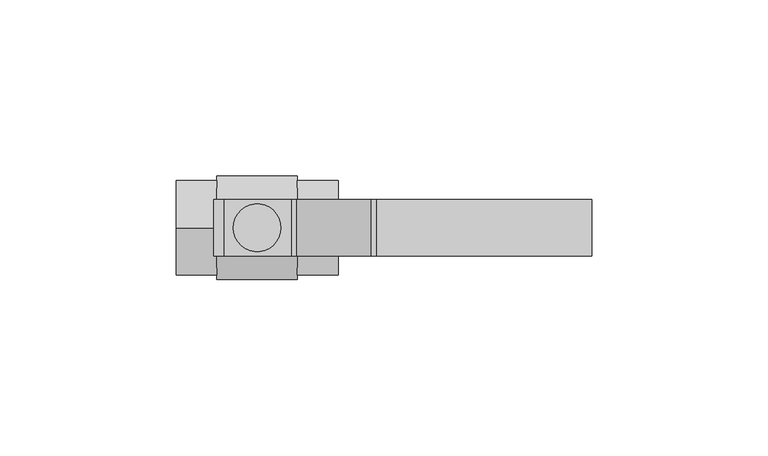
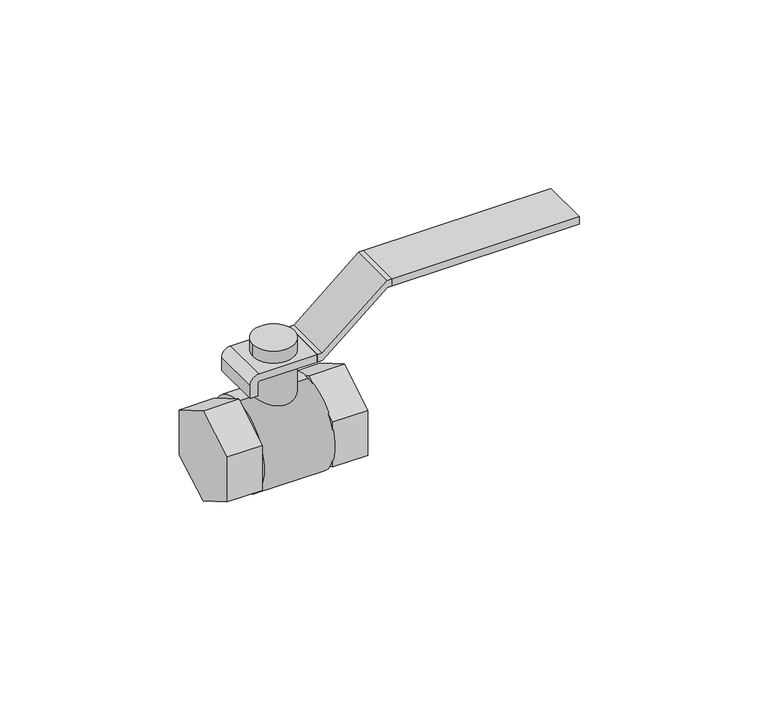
"""IFC4 building model written with IfcOpenShell, lengths in millimetres: valve geometry, ZYR_15.01.01 Vàlvula Tall : Vàlvula FON."""

import ifcopenshell
import ifcopenshell.guid

model = None  # the IFC model being written
_history = None  # IfcOwnerHistory: only IFC2X3 demands one
_inside = {}  # id of a spatial element -> (the spatial element, [elements in it])
_under = {}  # id of a project, library or spatial element -> (it, [spatial elements below it])
_declared = {}  # id of a project -> (the project, [libraries it declares])
_typed = {}  # id of a type object -> (the type object, [elements of that type])
_made_of = {}  # id of a material, layer set ... -> (it, [elements and type objects made of it])


def new_model(schema):
    """Start an empty IFC model of exactly this schema.

    Asked for "IFC4X3", IfcOpenShell would pick the latest addendum, in which some entities
    have other attributes; the version numbers below select the first issue.
    IFC2X3 requires an IfcOwnerHistory on every rooted entity: one is made here for all.
    """
    global model, _history
    if schema == "IFC4X3":
        model = ifcopenshell.file(schema_version=(4, 3, 0, 0))
    else:
        model = ifcopenshell.file(schema=schema)
    _inside.clear()
    _under.clear()
    _declared.clear()
    _typed.clear()
    _made_of.clear()
    _history = None
    if model.schema == "IFC2X3":
        org = make("IfcOrganization", Name="unknown")
        user = make(
            "IfcPersonAndOrganization",
            ThePerson=make("IfcPerson", FamilyName="unknown"),
            TheOrganization=org,
        )
        app = make(
            "IfcApplication",
            ApplicationDeveloper=org,
            Version="unknown",
            ApplicationFullName="unknown",
            ApplicationIdentifier="unknown",
        )
        _history = make(
            "IfcOwnerHistory",
            OwningUser=user,
            OwningApplication=app,
            ChangeAction="ADDED",
            CreationDate=0,
        )
    return model


def make(cls, **values):
    """One entity of the class cls with the attributes given. An attribute that is None is left unset."""
    return model.create_entity(
        cls, **{name: value for name, value in values.items() if value is not None}
    )


def rooted(cls, **values):
    """An entity with a GlobalId (a new one), such as an element, a storey or a relation."""
    return make(cls, GlobalId=ifcopenshell.guid.new(), OwnerHistory=_history, **values)


def si_unit(unit_type, name, prefix=None):
    """IfcSIUnit, for example si_unit("LENGTHUNIT", "METRE", prefix="MILLI")."""
    return make("IfcSIUnit", UnitType=unit_type, Prefix=prefix, Name=name)


def assignment(units):
    """IfcUnitAssignment: the units of a project."""
    return None if units is None else make("IfcUnitAssignment", Units=units)


def point(xyz):
    """IfcCartesianPoint."""
    return None if xyz is None else make("IfcCartesianPoint", Coordinates=xyz)


def direction(xyz):
    """IfcDirection."""
    return None if xyz is None else make("IfcDirection", DirectionRatios=xyz)


def frame(location, z_axis=None, x_axis=None):
    """IfcAxis2Placement3D, a coordinate frame: its origin and axes. An axis left out is left unset."""
    return make(
        "IfcAxis2Placement3D",
        Location=point(location),
        Axis=direction(z_axis),
        RefDirection=direction(x_axis),
    )


def frame_2d(location, x_axis=None):
    """IfcAxis2Placement2D, a coordinate frame in the plane: its origin and x axis."""
    return make(
        "IfcAxis2Placement2D", Location=point(location), RefDirection=direction(x_axis)
    )


def origin():
    """The frame at (0, 0, 0) with its axes left unset."""
    return frame((0.0, 0.0, 0.0))


def origin_with_axes():
    """The frame at (0, 0, 0) with the z axis (0, 0, 1) and the x axis (1, 0, 0) written out."""
    return frame((0.0, 0.0, 0.0), z_axis=(0.0, 0.0, 1.0), x_axis=(1.0, 0.0, 0.0))


def origin_2d():
    """The frame at (0, 0) in the plane with its x axis left unset."""
    return frame_2d((0.0, 0.0))


def place(relative_to, where):
    """IfcLocalPlacement: puts the frame where relative to a parent placement (None: the world)."""
    return make(
        "IfcLocalPlacement", PlacementRelTo=relative_to, RelativePlacement=where
    )


def context(
    kind, dimensions, precision=None, world=None, true_north=None, identifier=None
):
    """IfcGeometricRepresentationContext, for example the 3D "Model" context."""
    return make(
        "IfcGeometricRepresentationContext",
        ContextIdentifier=identifier,
        ContextType=kind,
        CoordinateSpaceDimension=dimensions,
        Precision=precision,
        WorldCoordinateSystem=world,
        TrueNorth=true_north,
    )


def project(units=None, contexts=None):
    """IfcProject with its units and contexts."""
    return rooted(
        "IfcProject",
        Name="project",
        RepresentationContexts=contexts,
        UnitsInContext=assignment(units),
    )


def spatial(cls, under=None, at=None, **own):
    """A site, building, storey or space (cls), placed at a placement, below another one or the project."""
    s = rooted(cls, ObjectPlacement=at, **own)
    if under is not None:
        _under.setdefault(under.id(), (under, []))[1].append(s)
    return s


def polyline(points):
    """IfcPolyline through the points."""
    return make("IfcPolyline", Points=[point(p) for p in points])


def circle_curve(where, radius):
    """IfcCircle in the frame where."""
    return make("IfcCircle", Position=where, Radius=radius)


def trimmed(basis, trim1, trim2, sense, master):
    """IfcTrimmedCurve: the piece of a basis curve between two trims."""
    return make(
        "IfcTrimmedCurve",
        BasisCurve=basis,
        Trim1=trim1,
        Trim2=trim2,
        SenseAgreement=sense,
        MasterRepresentation=master,
    )


def segment(curve, same_sense, transition):
    """IfcCompositeCurveSegment."""
    return make(
        "IfcCompositeCurveSegment",
        Transition=transition,
        SameSense=same_sense,
        ParentCurve=curve,
    )


def composite_curve(segments, self_intersect=None):
    """IfcCompositeCurve: segments joined end to end."""
    return make("IfcCompositeCurve", Segments=segments, SelfIntersect=self_intersect)


def outline(outer, holes=None, kind="AREA"):
    """IfcArbitraryClosedProfileDef: a profile drawn as a closed curve; with holes, ...WithVoids."""
    if holes is None:
        return make("IfcArbitraryClosedProfileDef", ProfileType=kind, OuterCurve=outer)
    return make(
        "IfcArbitraryProfileDefWithVoids",
        ProfileType=kind,
        OuterCurve=outer,
        InnerCurves=holes,
    )


def extrude(swept, where, along, depth):
    """IfcExtrudedAreaSolid: the profile swept, set in the frame where, extruded along a direction by depth."""
    return make(
        "IfcExtrudedAreaSolid",
        SweptArea=swept,
        Position=where,
        ExtrudedDirection=direction(along),
        Depth=depth,
    )


def shape(context_of_items, identifier, shape_type, items):
    """IfcShapeRepresentation: the items that make up one representation, for example the "Body"."""
    return make(
        "IfcShapeRepresentation",
        ContextOfItems=context_of_items,
        RepresentationIdentifier=identifier,
        RepresentationType=shape_type,
        Items=items,
    )


def source(mapping_origin, context_of_items, identifier, shape_type, items):
    """IfcRepresentationMap: a shape defined once, which mapped items show again and again."""
    return make(
        "IfcRepresentationMap",
        MappingOrigin=mapping_origin,
        MappedRepresentation=shape(context_of_items, identifier, shape_type, items),
    )


def transform(
    local_origin,
    x_axis=None,
    y_axis=None,
    z_axis=None,
    scale=None,
    scale2=None,
    scale3=None,
    uniform=True,
):
    """IfcCartesianTransformationOperator3D, or its non-uniform kind. x_axis, y_axis, z_axis: its Axis1, 2, 3."""
    if uniform:
        return make(
            "IfcCartesianTransformationOperator3D",
            Axis1=direction(x_axis),
            Axis2=direction(y_axis),
            LocalOrigin=point(local_origin),
            Scale=scale,
            Axis3=direction(z_axis),
        )
    return make(
        "IfcCartesianTransformationOperator3DnonUniform",
        Axis1=direction(x_axis),
        Axis2=direction(y_axis),
        LocalOrigin=point(local_origin),
        Scale=scale,
        Axis3=direction(z_axis),
        Scale2=scale2,
        Scale3=scale3,
    )


def mapped(mapping_source, mapping_target):
    """IfcMappedItem: shows the shape of a source again, moved by a transform."""
    return make(
        "IfcMappedItem", MappingSource=mapping_source, MappingTarget=mapping_target
    )


def made_of(thing, what):
    """Note that an element or type object is made of a material, layer set ...; save() writes the relation."""
    if what is not None:
        _made_of.setdefault(what.id(), (what, []))[1].append(thing)
    return thing


def element(
    cls,
    number,
    at=None,
    inside=None,
    cuts=None,
    type_object=None,
    material=None,
    context=None,
    identifier="Body",
    shape_type=None,
    held_by="IfcProductDefinitionShape",
    body=None,
    shapes=None,
    **own,
):
    """One element of the class cls, such as IfcWall. Its Tag is "e" and its number.

    at: its placement. inside: the storey or other place that contains it. cuts: it is an
    opening in that element (IfcRelVoidsElement). A single representation is given by context,
    identifier, shape_type and body (its items); several are given by shapes. held_by: the class
    of the entity that holds the representations. save() writes the other relations.
    """
    e = rooted(cls, Tag="e%d" % number, ObjectPlacement=at, **own)
    if body is not None:
        shapes = [shape(context, identifier, shape_type, body)]
    if shapes is not None:
        e.Representation = make(held_by, Representations=shapes)
    if inside is not None:
        _inside.setdefault(inside.id(), (inside, []))[1].append(e)
    if cuts is not None:
        rooted(
            "IfcRelVoidsElement", RelatingBuildingElement=cuts, RelatedOpeningElement=e
        )
    if type_object is not None:
        _typed.setdefault(type_object.id(), (type_object, []))[1].append(e)
    return made_of(e, material)


def aggregate(whole, parts):
    """IfcRelAggregates: a whole, such as a stair, and the parts it consists of."""
    return rooted("IfcRelAggregates", RelatingObject=whole, RelatedObjects=parts)


def save(model, path):
    """Write the relations noted so far, then the file.

    IfcRelAggregates (storeys below a building ...), IfcRelContainedInSpatialStructure (elements
    in a storey), IfcRelDefinesByType, IfcRelAssociatesMaterial and IfcRelDeclares: one each for
    every whole, place, type object, material and project.
    """
    for whole, parts in _under.values():
        aggregate(whole, parts)
    for where, things in _inside.values():
        rooted(
            "IfcRelContainedInSpatialStructure",
            RelatedElements=things,
            RelatingStructure=where,
        )
    for kind, things in _typed.values():
        rooted("IfcRelDefinesByType", RelatedObjects=things, RelatingType=kind)
    for what, things in _made_of.values():
        rooted("IfcRelAssociatesMaterial", RelatedObjects=things, RelatingMaterial=what)
    for by, libraries in _declared.values():
        rooted("IfcRelDeclares", RelatingContext=by, RelatedDefinitions=libraries)
    model.write(path)


def plane_surface(at):
    """IfcPlane: the flat surface through the origin of the frame at, square to its z axis."""
    return make("IfcPlane", Position=at)


def cylinder_surface(at, radius):
    """IfcCylindricalSurface: all points at the distance radius from the z axis of the frame at."""
    return make("IfcCylindricalSurface", Position=at, Radius=radius)


def advanced_brep(points, edges, surfaces, faces):
    """IfcAdvancedBrep: a solid bounded by faces that lie on surfaces and meet in shared edges.

    An edge is (start, end): straight between two places in points (the first is 0);
    or (start, end, curve); or (start, end, curve, False) where it runs against its curve.
    A face is (place in surfaces, loops), or (place, loops, False) where it looks against
    its surface's normal. A loop lists edges by number (the first is 1), with a minus sign
    where the edge is run from its end to its start. The first loop is the outer one.
    """
    corners = [point(p) for p in points]
    vertices = [make("IfcVertexPoint", VertexGeometry=c) for c in corners]
    made = []
    for start, end, *more in edges:
        made.append(
            make(
                "IfcEdgeCurve",
                EdgeStart=vertices[start],
                EdgeEnd=vertices[end],
                EdgeGeometry=more[0] if more else make("IfcPolyline", Points=[corners[start], corners[end]]),
                SameSense=more[1] if len(more) > 1 else True,
            )
        )
    hull = []
    for where, loops, *sense in faces:
        bounds = []
        for j, loop in enumerate(loops):
            ring = [make("IfcOrientedEdge", EdgeElement=made[abs(k) - 1], Orientation=k > 0) for k in loop]
            bounds.append(
                make(
                    "IfcFaceOuterBound" if j == 0 else "IfcFaceBound",
                    Bound=make("IfcEdgeLoop", EdgeList=ring),
                    Orientation=True,
                )
            )
        hull.append(make("IfcAdvancedFace", Bounds=bounds, FaceSurface=surfaces[where], SameSense=sense[0] if sense else True))
    return make("IfcAdvancedBrep", Outer=make("IfcClosedShell", CfsFaces=hull))


def valve_a465f50b(model_context):
    return source(origin(), model_context, "Body", "SolidModel", [
        extrude(outline(polyline([(25.8, 11.3), (43.5, 32.37), (43.5, 33.87), (46.0, 33.87), (46.0, 32.37), (28.3, 11.3), (28.3, 9.8), (25.8, 9.8), (25.8, 11.3)])), frame((0.0, -8.0, 0.0), z_axis=(0.0, 1.0, 0.0), x_axis=(0.0, 0.0, 1.0)), (0.0, 0.0, 1.0), 16.0),
        extrude(outline(polyline([(95.0, -8.0), (33.87, -8.0), (33.87, 8.0), (95.0, 8.0), (95.0, -8.0)])), frame((0.0, 0.0, 43.5), z_axis=(0.0, 0.0, 1.0), x_axis=(1.0, 0.0, 0.0)), (0.0, 0.0, 1.0), 2.5),
        extrude(outline(composite_curve([segment(polyline([(20.9, -9.8), (25.3, -9.8)]), True, "CONTINUOUS"), segment(trimmed(circle_curve(frame_2d((25.3, -9.3)), 0.5), [point((25.3, -9.8))], [point((25.8, -9.3))], True, "CARTESIAN"), True, "CONTINUOUS"), segment(polyline([(25.8, -9.3), (25.8, 9.8), (28.3, 9.8), (28.3, -9.3)]), True, "CONTINUOUS"), segment(trimmed(circle_curve(frame_2d((25.3, -9.3)), 3.0), [point((28.3, -9.3))], [point((25.3, -12.3))], False, "CARTESIAN"), True, "CONTINUOUS"), segment(polyline([(25.3, -12.3), (20.9, -12.3), (20.9, -9.8)]), True, "CONTINUOUS")], self_intersect=False)), frame((0.0, -8.0, 0.0), z_axis=(0.0, 1.0, 0.0), x_axis=(0.0, 0.0, 1.0)), (0.0, 0.0, 1.0), 16.0),
        extrude(outline(polyline([(-13.4233938, -7.75), (-13.4233938, 7.75), (0.0, 15.5), (13.4233938, 7.75), (13.4233938, -7.75), (0.0, -15.5), (-13.4233938, -7.75)])), frame((-23.0, 0.0, 0.0), z_axis=(1.0, 0.0, 0.0), x_axis=(0.0, 1.0, 0.0)), (0.0, 0.0, 1.0), 11.56),
        extrude(outline(polyline([(-13.4233938, -7.75), (-13.4233938, 7.75), (0.0, 15.5), (13.4233938, 7.75), (13.4233938, -7.75), (0.0, -15.5), (-13.4233938, -7.75)])), frame((11.44, 0.0, 0.0), z_axis=(1.0, 0.0, 0.0), x_axis=(0.0, 1.0, 0.0)), (0.0, 0.0, 1.0), 11.56),
        advanced_brep(
        [(11.44, 0.0, -14.8), (11.44, 0.0, 14.8), (11.44, 0.0, 0.0), (-11.44, 0.0, -14.8), (-11.44, 0.0, 14.8), (-11.44, 0.0, 0.0)],
        [
            (0, 1, circle_curve(frame((11.44, 0.0, 0.0), z_axis=(1.0, 0.0, 0.0), x_axis=(0.0, 0.0, 1.0)), 14.8)),
            (1, 2),
            (2, 0),
            (1, 0, circle_curve(frame((11.44, 0.0, 0.0), z_axis=(1.0, 0.0, 0.0), x_axis=(0.0, 0.0, 1.0)), 14.8)),
            (3, 4, circle_curve(frame((-11.44, 0.0, 0.0), z_axis=(1.0, 0.0, 0.0), x_axis=(0.0, 0.0, 1.0)), 14.8)),
            (4, 1),
            (0, 3),
            (4, 3, circle_curve(frame((-11.44, 0.0, 0.0), z_axis=(1.0, 0.0, 0.0), x_axis=(0.0, 0.0, 1.0)), 14.8)),
            (5, 4),
            (3, 5),
        ],
        [
            plane_surface(frame((11.44, 0.0, 0.0), z_axis=(1.0, 0.0, 0.0), x_axis=(0.0, 0.0, 1.0))),
            cylinder_surface(frame((-1328.546, 0.0, 0.0), z_axis=(-1.0, 0.0, 0.0), x_axis=(0.0, 0.0, 1.0)), 14.8),
            plane_surface(frame((-11.44, 0.0, 0.0), z_axis=(-1.0, 0.0, 0.0), x_axis=(0.0, 0.0, 1.0))),
        ],
        [
            (0, [[1, 2, 3]]),
            (0, [[4, -3, -2]]),
            (1, [[5, 6, -1, 7]]),
            (1, [[8, -7, -4, -6]]),
            (2, [[9, -5, 10]]),
            (2, [[-10, -8, -9]]),
        ],
    ),
        extrude(outline(composite_curve([segment(trimmed(circle_curve(origin_2d(), 6.75), [point((-6.75, 0.0))], [point((6.75, 0.0))], False, "CARTESIAN"), True, "CONTINUOUS"), segment(trimmed(circle_curve(origin_2d(), 6.75), [point((6.75, 0.0))], [point((-6.75, 0.0))], False, "CARTESIAN"), True, "CONTINUOUS")], self_intersect=False)), origin_with_axes(), (0.0, 0.0, 1.0), 32.8),
    ])


if __name__ == "__main__":
    model = new_model("IFC4")
    model_context = context("Model", 3, world=origin())
    ifc_project = project(units=[si_unit("LENGTHUNIT", "METRE", prefix="MILLI")], contexts=[model_context])
    site = spatial("IfcSite", under=ifc_project)
    building = spatial("IfcBuilding", under=site)
    placement = place(None, origin())
    valve_shape = valve_a465f50b(model_context)
    element("IfcValve", 1, ObjectType="ZYR_15.01.01 Vàlvula Tall : Vàlvula FON", at=placement, inside=building, context=model_context, shape_type="MappedRepresentation", body=[
        mapped(valve_shape, transform((0.0, 0.0, 0.0), x_axis=(1.0, 0.0, 0.0), y_axis=(0.0, 1.0, 0.0), z_axis=(0.0, 0.0, 1.0))),
    ])
    save(model, "model.ifc")
